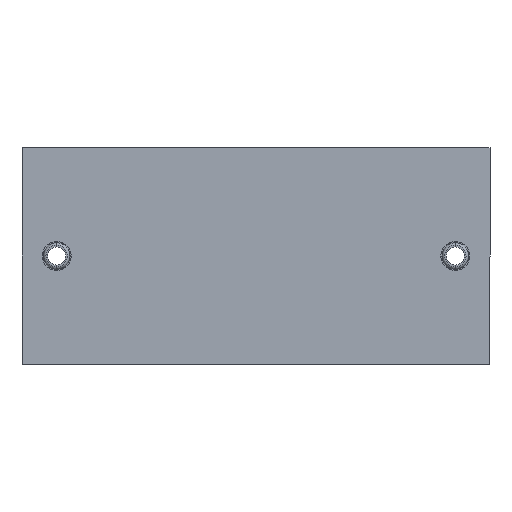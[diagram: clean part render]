
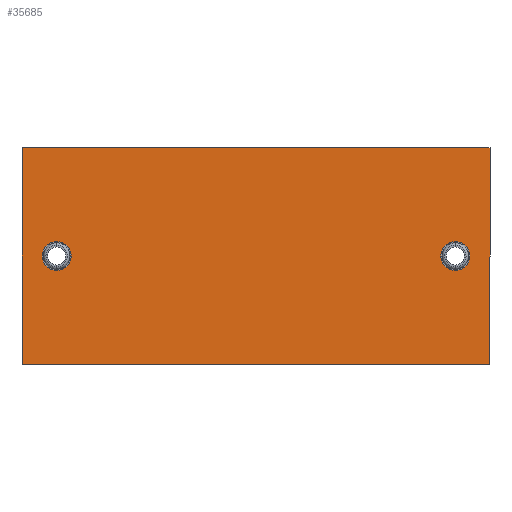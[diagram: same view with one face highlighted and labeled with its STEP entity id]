
A CAD part, front view. The second image highlights one B-rep face of the part: STEP entity #35685.
In plain terms, the highlighted planar face has unit normal (0, -1, 0).
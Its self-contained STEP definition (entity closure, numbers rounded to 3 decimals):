
#87 = VECTOR ( 'NONE', #23550, 1000. ) ;
#837 = CIRCLE ( 'NONE', #3880, 3.35 ) ;
#3082 = CARTESIAN_POINT ( 'NONE',  ( 0., 0., 0. ) ) ;
#3880 = AXIS2_PLACEMENT_3D ( 'NONE', #26601, #6155, #30062 ) ;
#4043 = EDGE_LOOP ( 'NONE', ( #8037, #29693 ) ) ;
#4376 = EDGE_CURVE ( 'NONE', #6569, #31187, #7969, .T. ) ;
#4580 = ORIENTED_EDGE ( 'NONE', *, *, #30061, .F. ) ;
#5242 = EDGE_CURVE ( 'NONE', #22532, #10866, #837, .T. ) ;
#5273 = DIRECTION ( 'NONE',  ( 0., -1., 0. ) ) ;
#5969 = DIRECTION ( 'NONE',  ( 0., 1., 0. ) ) ;
#6155 = DIRECTION ( 'NONE',  ( 0., 1., 0. ) ) ;
#6569 = VERTEX_POINT ( 'NONE', #26890 ) ;
#7161 = AXIS2_PLACEMENT_3D ( 'NONE', #26431, #5969, #29883 ) ;
#7607 = EDGE_CURVE ( 'NONE', #42585, #6569, #38975, .T. ) ;
#7969 = LINE ( 'NONE', #26039, #33167 ) ;
#8037 = ORIENTED_EDGE ( 'NONE', *, *, #5242, .T. ) ;
#8040 = EDGE_LOOP ( 'NONE', ( #39979, #28097, #36382, #39148 ) ) ;
#8934 = EDGE_CURVE ( 'NONE', #10866, #22532, #32234, .T. ) ;
#10396 = FACE_BOUND ( 'NONE', #4043, .T. ) ;
#10866 = VERTEX_POINT ( 'NONE', #23876 ) ;
#11237 = DIRECTION ( 'NONE',  ( 0., 0., -1. ) ) ;
#12188 = EDGE_CURVE ( 'NONE', #34408, #24164, #15129, .T. ) ;
#13519 = ORIENTED_EDGE ( 'NONE', *, *, #12188, .F. ) ;
#13979 = EDGE_CURVE ( 'NONE', #39484, #42585, #19058, .T. ) ;
#15129 = CIRCLE ( 'NONE', #34211, 3.35 ) ;
#16374 = CARTESIAN_POINT ( 'NONE',  ( 8., 0., -25. ) ) ;
#19058 = LINE ( 'NONE', #34252, #37300 ) ;
#19768 = DIRECTION ( 'NONE',  ( 0., 0., -1. ) ) ;
#21171 = EDGE_LOOP ( 'NONE', ( #13519, #4580 ) ) ;
#22532 = VERTEX_POINT ( 'NONE', #39009 ) ;
#22615 = DIRECTION ( 'NONE',  ( 0., 0., 1. ) ) ;
#23550 = DIRECTION ( 'NONE',  ( 1., 0., 0. ) ) ;
#23783 = DIRECTION ( 'NONE',  ( -1., 0., 0. ) ) ;
#23876 = CARTESIAN_POINT ( 'NONE',  ( 100., 0., -21.65 ) ) ;
#24164 = VERTEX_POINT ( 'NONE', #25934 ) ;
#24810 = CARTESIAN_POINT ( 'NONE',  ( 0., 0., 0. ) ) ;
#25764 = CARTESIAN_POINT ( 'NONE',  ( 8., 0., -25. ) ) ;
#25934 = CARTESIAN_POINT ( 'NONE',  ( 8., 0., -21.65 ) ) ;
#26039 = CARTESIAN_POINT ( 'NONE',  ( 0., 0., 0. ) ) ;
#26087 = EDGE_CURVE ( 'NONE', #31187, #39484, #35464, .T. ) ;
#26431 = CARTESIAN_POINT ( 'NONE',  ( 100., 0., -25. ) ) ;
#26601 = CARTESIAN_POINT ( 'NONE',  ( 100., 0., -25. ) ) ;
#26890 = CARTESIAN_POINT ( 'NONE',  ( 0., 0., -50. ) ) ;
#27473 = FACE_OUTER_BOUND ( 'NONE', #8040, .T. ) ;
#28097 = ORIENTED_EDGE ( 'NONE', *, *, #7607, .F. ) ;
#28254 = PLANE ( 'NONE',  #36828 ) ;
#28554 = FACE_BOUND ( 'NONE', #21171, .T. ) ;
#28754 = VECTOR ( 'NONE', #23783, 1000. ) ;
#29195 = DIRECTION ( 'NONE',  ( 0., 0., -1. ) ) ;
#29693 = ORIENTED_EDGE ( 'NONE', *, *, #8934, .T. ) ;
#29883 = DIRECTION ( 'NONE',  ( 0., 0., -1. ) ) ;
#30061 = EDGE_CURVE ( 'NONE', #24164, #34408, #32805, .T. ) ;
#30062 = DIRECTION ( 'NONE',  ( 0., 0., -1. ) ) ;
#31187 = VERTEX_POINT ( 'NONE', #38861 ) ;
#31727 = DIRECTION ( 'NONE',  ( 0., -1., 0. ) ) ;
#32234 = CIRCLE ( 'NONE', #7161, 3.35 ) ;
#32425 = CARTESIAN_POINT ( 'NONE',  ( 108., 0., -50. ) ) ;
#32805 = CIRCLE ( 'NONE', #37196, 3.35 ) ;
#33167 = VECTOR ( 'NONE', #22615, 1000. ) ;
#33997 = CARTESIAN_POINT ( 'NONE',  ( 0., 0., -50. ) ) ;
#34211 = AXIS2_PLACEMENT_3D ( 'NONE', #25764, #5273, #29195 ) ;
#34252 = CARTESIAN_POINT ( 'NONE',  ( 108., 0., 0. ) ) ;
#34408 = VERTEX_POINT ( 'NONE', #38860 ) ;
#35464 = LINE ( 'NONE', #3082, #87 ) ;
#35685 = ADVANCED_FACE ( 'NONE', ( #10396, #28554, #27473 ), #28254, .T. ) ;
#35875 = CARTESIAN_POINT ( 'NONE',  ( 108., 0., 0. ) ) ;
#36382 = ORIENTED_EDGE ( 'NONE', *, *, #13979, .F. ) ;
#36828 = AXIS2_PLACEMENT_3D ( 'NONE', #24810, #31727, #11237 ) ;
#37196 = AXIS2_PLACEMENT_3D ( 'NONE', #16374, #40306, #19768 ) ;
#37300 = VECTOR ( 'NONE', #40985, 1000. ) ;
#38860 = CARTESIAN_POINT ( 'NONE',  ( 8., 0., -28.35 ) ) ;
#38861 = CARTESIAN_POINT ( 'NONE',  ( 0., 0., 0. ) ) ;
#38975 = LINE ( 'NONE', #33997, #28754 ) ;
#39009 = CARTESIAN_POINT ( 'NONE',  ( 100., 0., -28.35 ) ) ;
#39148 = ORIENTED_EDGE ( 'NONE', *, *, #26087, .F. ) ;
#39484 = VERTEX_POINT ( 'NONE', #35875 ) ;
#39979 = ORIENTED_EDGE ( 'NONE', *, *, #4376, .F. ) ;
#40306 = DIRECTION ( 'NONE',  ( 0., -1., 0. ) ) ;
#40985 = DIRECTION ( 'NONE',  ( 0., 0., -1. ) ) ;
#42585 = VERTEX_POINT ( 'NONE', #32425 ) ;
